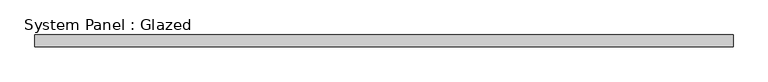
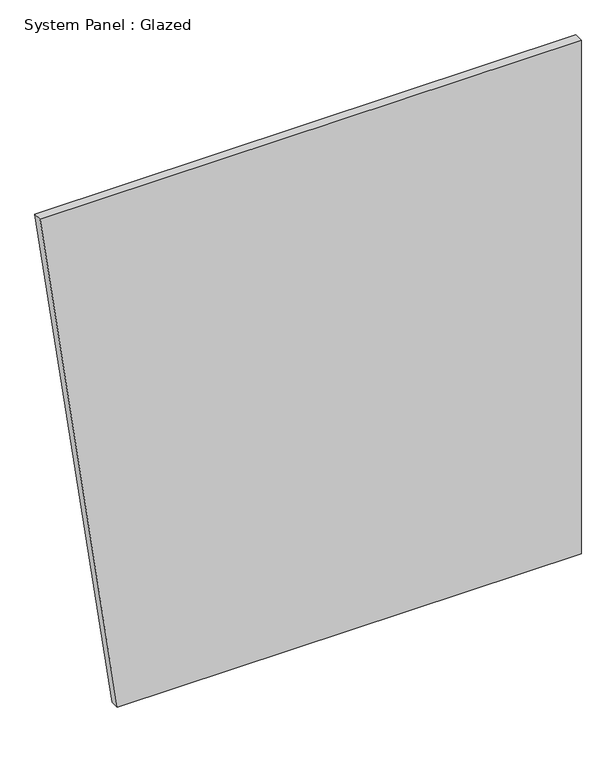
"""IFC4 building model written with IfcOpenShell, lengths in millimetres: plate geometry, System Panel : Glazed."""

from ifc_helpers import new_model, si_unit, frame, origin, place, context, project, spatial, polyline, outline, extrude, source, transform, mapped, element, save


def system_panel_glazed_8974581c(model_context):
    return source(origin(), model_context, "Body", "SweptSolid", [
        extrude(outline(polyline([(0.0, -542.6133879), (0.0, 759.658743), (1524.0, 759.658743), (1524.0, -759.658743), (0.0, -542.6133879)])), frame((0.0, 19.05, 0.0), z_axis=(0.0, 1.0, 0.0), x_axis=(0.0, 0.0, 1.0)), (0.0, 0.0, 1.0), 25.4),
    ])


if __name__ == "__main__":
    model = new_model("IFC4")
    model_context = context("Model", 3, world=origin())
    ifc_project = project(units=[si_unit("LENGTHUNIT", "METRE", prefix="MILLI")], contexts=[model_context])
    site = spatial("IfcSite", under=ifc_project)
    building = spatial("IfcBuilding", under=site)
    placement = place(None, origin())
    system_panel_glazed_shape = system_panel_glazed_8974581c(model_context)
    element("IfcPlate", 1, ObjectType="System Panel : Glazed", at=placement, inside=building, context=model_context, shape_type="MappedRepresentation", body=[
        mapped(system_panel_glazed_shape, transform((0.0, 0.0, 0.0), x_axis=(1.0, 0.0, 0.0), y_axis=(0.0, 1.0, 0.0), z_axis=(0.0, 0.0, 1.0))),
    ])
    save(model, "model.ifc")
